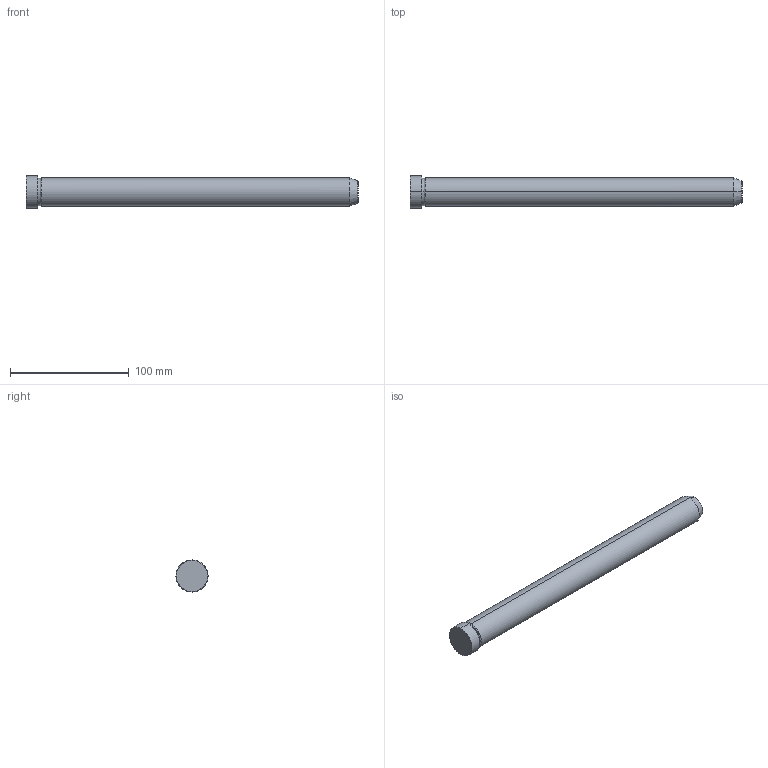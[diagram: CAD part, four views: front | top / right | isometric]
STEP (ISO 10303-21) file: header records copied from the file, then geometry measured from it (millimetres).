
FILE_DESCRIPTION(('CATIA V5 STEP Exchange'),'2;1');
FILE_NAME('C:\Users\Utente\Desktop\IO LAVORO\3D X SITO CF\X SITO\PLASTICA\549\549-24X280.stp','2021-12-17T14:07:49+00:00',('none'),('none'),'CATIA Version 5 Release 20 GA (IN-10)','CATIA V5 STEP AP203','none');
FILE_SCHEMA(('CONFIG_CONTROL_DESIGN'));
Length unit declared in the file: millimetre
Products named in the file (1): 549-24X280
Bounding box: 280 x 27 x 27 mm (x, y, z)
Volume: 127080.8 mm3; surface area: 22136.7 mm2
Topology: 1 solids, 1 shells, 19 faces, 56 edges, 40 vertices
Faces by surface type: cone 8, cylinder 6, plane 3, torus 2
Entity records: 736 total; most frequent: CARTESIAN_POINT 192, ORIENTED_EDGE 112, DIRECTION 86, EDGE_CURVE 56, AXIS2_PLACEMENT_3D 54, VERTEX_POINT 40, CIRCLE 34, EDGE_LOOP 20
